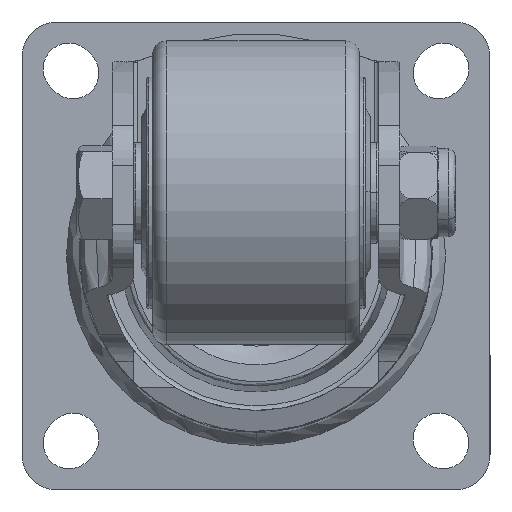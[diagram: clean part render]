
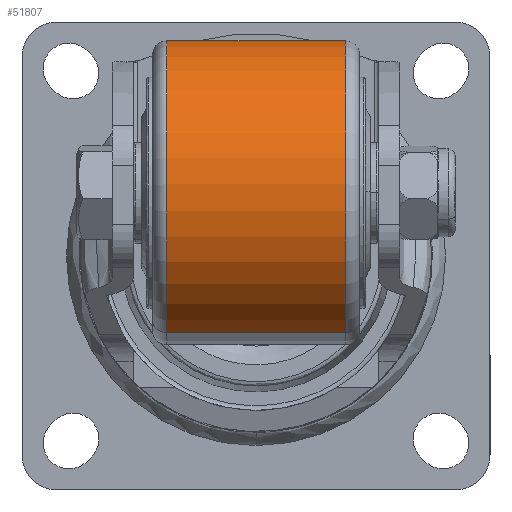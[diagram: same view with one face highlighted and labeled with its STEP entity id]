
A CAD part, front view. The second image highlights one B-rep face of the part: STEP entity #51807.
In plain terms, the highlighted cylindrical face has radius 32.5 mm (diameter 65 mm), a partial arc.
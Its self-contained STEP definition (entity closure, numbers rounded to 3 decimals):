
#1701 = DIRECTION ( 'NONE',  ( 0., 0., -1. ) ) ;
#1769 = CARTESIAN_POINT ( 'NONE',  ( 42.893, -64., 46. ) ) ;
#3557 = CARTESIAN_POINT ( 'NONE',  ( 19.142, -64., 46. ) ) ;
#3563 = CIRCLE ( 'NONE', #13185, 32.5 ) ;
#4550 = EDGE_CURVE ( 'NONE', #43276, #4701, #39407, .T. ) ;
#4701 = VERTEX_POINT ( 'NONE', #36730 ) ;
#10091 = CARTESIAN_POINT ( 'NONE',  ( -19.1, -64., -19. ) ) ;
#10229 = DIRECTION ( 'NONE',  ( -1., 0., 0. ) ) ;
#10672 = CARTESIAN_POINT ( 'NONE',  ( 19.142, -64., 13.5 ) ) ;
#10749 = ORIENTED_EDGE ( 'NONE', *, *, #40476, .T. ) ;
#10772 = DIRECTION ( 'NONE',  ( 1., 0., 0. ) ) ;
#11921 = EDGE_LOOP ( 'NONE', ( #58998, #17374, #13568, #10749 ) ) ;
#13185 = AXIS2_PLACEMENT_3D ( 'NONE', #15194, #10772, #33763 ) ;
#13351 = VERTEX_POINT ( 'NONE', #10091 ) ;
#13568 = ORIENTED_EDGE ( 'NONE', *, *, #4550, .T. ) ;
#14404 = CYLINDRICAL_SURFACE ( 'NONE', #53778, 32.5 ) ;
#14816 = DIRECTION ( 'NONE',  ( 0., 0., 1. ) ) ;
#15194 = CARTESIAN_POINT ( 'NONE',  ( -19.1, -64., 13.5 ) ) ;
#17374 = ORIENTED_EDGE ( 'NONE', *, *, #37366, .T. ) ;
#24156 = DIRECTION ( 'NONE',  ( -1., 0., 0. ) ) ;
#24593 = CARTESIAN_POINT ( 'NONE',  ( 42.893, -64., -19. ) ) ;
#24840 = DIRECTION ( 'NONE',  ( -1., 0., 0. ) ) ;
#26317 = VERTEX_POINT ( 'NONE', #30306 ) ;
#28156 = EDGE_CURVE ( 'NONE', #26317, #13351, #46387, .T. ) ;
#29170 = DIRECTION ( 'NONE',  ( -1., 0., 0. ) ) ;
#29944 = CIRCLE ( 'NONE', #30866, 32.5 ) ;
#30306 = CARTESIAN_POINT ( 'NONE',  ( 19.142, -64., -19. ) ) ;
#30866 = AXIS2_PLACEMENT_3D ( 'NONE', #10672, #24840, #1701 ) ;
#33763 = DIRECTION ( 'NONE',  ( 0., 0., -1. ) ) ;
#36730 = CARTESIAN_POINT ( 'NONE',  ( -19.1, -64., 46. ) ) ;
#37366 = EDGE_CURVE ( 'NONE', #26317, #43276, #29944, .T. ) ;
#39407 = LINE ( 'NONE', #1769, #40881 ) ;
#40476 = EDGE_CURVE ( 'NONE', #4701, #13351, #3563, .T. ) ;
#40881 = VECTOR ( 'NONE', #24156, 1000. ) ;
#41367 = CARTESIAN_POINT ( 'NONE',  ( 42.893, -64., 13.5 ) ) ;
#43276 = VERTEX_POINT ( 'NONE', #3557 ) ;
#46387 = LINE ( 'NONE', #24593, #55669 ) ;
#51807 = ADVANCED_FACE ( 'NONE', ( #52242 ), #14404, .T. ) ;
#52242 = FACE_OUTER_BOUND ( 'NONE', #11921, .T. ) ;
#53778 = AXIS2_PLACEMENT_3D ( 'NONE', #41367, #10229, #14816 ) ;
#55669 = VECTOR ( 'NONE', #29170, 1000. ) ;
#58998 = ORIENTED_EDGE ( 'NONE', *, *, #28156, .F. ) ;
